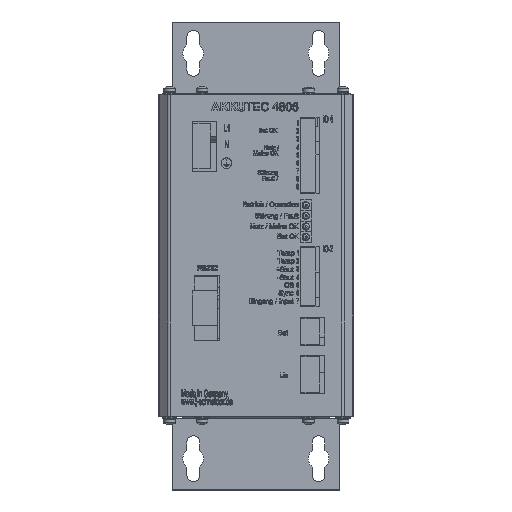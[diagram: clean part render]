
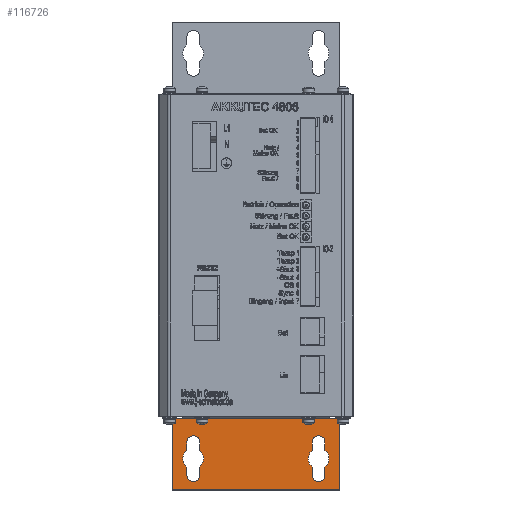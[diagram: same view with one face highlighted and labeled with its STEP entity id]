
A CAD part, top view. The second image highlights one B-rep face of the part: STEP entity #116726.
In plain terms, the highlighted planar face has unit normal (0, 0, 1).
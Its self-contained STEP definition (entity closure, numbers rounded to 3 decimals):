
#4334=FACE_BOUND('',#14344,.T.);
#4335=FACE_BOUND('',#14345,.T.);
#5443=CIRCLE('',#123843,3.);
#5444=CIRCLE('',#123845,3.);
#5447=CIRCLE('',#123849,3.);
#5448=CIRCLE('',#123851,3.);
#5455=CIRCLE('',#123867,5.);
#5456=CIRCLE('',#123869,5.);
#5459=CIRCLE('',#123877,5.);
#5461=CIRCLE('',#123880,5.);
#8072=FACE_OUTER_BOUND('',#14343,.T.);
#14343=EDGE_LOOP('',(#83449,#83450,#83451,#83452,#83453,#83454));
#14344=EDGE_LOOP('',(#83455,#83456,#83457,#83458,#83459,#83460,#83461,#83462));
#14345=EDGE_LOOP('',(#83463,#83464,#83465,#83466,#83467,#83468,#83469,#83470));
#24035=LINE('',#161595,#37232);
#24039=LINE('',#161603,#37236);
#24041=LINE('',#161607,#37238);
#24044=LINE('',#161613,#37241);
#24048=LINE('',#161621,#37245);
#24052=LINE('',#161628,#37249);
#24053=LINE('',#161637,#37250);
#24056=LINE('',#161643,#37253);
#24060=LINE('',#161651,#37257);
#24062=LINE('',#161655,#37259);
#24085=LINE('',#161722,#37282);
#24091=LINE('',#161735,#37288);
#24092=LINE('',#161737,#37289);
#24093=LINE('',#161738,#37290);
#37232=VECTOR('',#136416,1.);
#37236=VECTOR('',#136422,1.);
#37238=VECTOR('',#136426,1.);
#37241=VECTOR('',#136431,1.);
#37245=VECTOR('',#136437,1.);
#37249=VECTOR('',#136443,1.);
#37250=VECTOR('',#136458,1.);
#37253=VECTOR('',#136463,1.);
#37257=VECTOR('',#136469,1.);
#37259=VECTOR('',#136473,1.);
#37282=VECTOR('',#136544,1.);
#37288=VECTOR('',#136556,1.);
#37289=VECTOR('',#136557,1.);
#37290=VECTOR('',#136558,1.);
#48930=VERTEX_POINT('',#161546);
#48931=VERTEX_POINT('',#161548);
#48932=VERTEX_POINT('',#161552);
#48933=VERTEX_POINT('',#161553);
#48938=VERTEX_POINT('',#161564);
#48939=VERTEX_POINT('',#161566);
#48940=VERTEX_POINT('',#161570);
#48941=VERTEX_POINT('',#161571);
#48949=VERTEX_POINT('',#161592);
#48950=VERTEX_POINT('',#161594);
#48952=VERTEX_POINT('',#161600);
#48954=VERTEX_POINT('',#161606);
#48956=VERTEX_POINT('',#161612);
#48958=VERTEX_POINT('',#161618);
#48961=VERTEX_POINT('',#161625);
#48962=VERTEX_POINT('',#161636);
#48964=VERTEX_POINT('',#161642);
#48966=VERTEX_POINT('',#161648);
#48968=VERTEX_POINT('',#161654);
#48988=VERTEX_POINT('',#161720);
#48992=VERTEX_POINT('',#161734);
#48993=VERTEX_POINT('',#161736);
#61622=EDGE_CURVE('',#48931,#48930,#5443,.T.);
#61624=EDGE_CURVE('',#48932,#48933,#5444,.T.);
#61630=EDGE_CURVE('',#48939,#48938,#5447,.T.);
#61632=EDGE_CURVE('',#48940,#48941,#5448,.T.);
#61643=EDGE_CURVE('',#48950,#48949,#24035,.T.);
#61647=EDGE_CURVE('',#48949,#48952,#24039,.T.);
#61649=EDGE_CURVE('',#48954,#48940,#24041,.T.);
#61652=EDGE_CURVE('',#48930,#48956,#24044,.T.);
#61656=EDGE_CURVE('',#48941,#48958,#24048,.T.);
#61660=EDGE_CURVE('',#48961,#48931,#24052,.T.);
#61662=EDGE_CURVE('',#48956,#48954,#5455,.T.);
#61663=EDGE_CURVE('',#48958,#48961,#5456,.T.);
#61665=EDGE_CURVE('',#48962,#48932,#24053,.T.);
#61668=EDGE_CURVE('',#48938,#48964,#24056,.T.);
#61672=EDGE_CURVE('',#48933,#48966,#24060,.T.);
#61674=EDGE_CURVE('',#48968,#48939,#24062,.T.);
#61678=EDGE_CURVE('',#48966,#48968,#5459,.T.);
#61680=EDGE_CURVE('',#48964,#48962,#5461,.T.);
#61709=EDGE_CURVE('',#48952,#48988,#24085,.T.);
#61715=EDGE_CURVE('',#48950,#48992,#24091,.T.);
#61716=EDGE_CURVE('',#48993,#48988,#24092,.T.);
#61717=EDGE_CURVE('',#48992,#48993,#24093,.T.);
#83449=ORIENTED_EDGE('',*,*,#61715,.F.);
#83450=ORIENTED_EDGE('',*,*,#61643,.T.);
#83451=ORIENTED_EDGE('',*,*,#61647,.T.);
#83452=ORIENTED_EDGE('',*,*,#61709,.T.);
#83453=ORIENTED_EDGE('',*,*,#61716,.F.);
#83454=ORIENTED_EDGE('',*,*,#61717,.F.);
#83455=ORIENTED_EDGE('',*,*,#61678,.T.);
#83456=ORIENTED_EDGE('',*,*,#61674,.T.);
#83457=ORIENTED_EDGE('',*,*,#61630,.T.);
#83458=ORIENTED_EDGE('',*,*,#61668,.T.);
#83459=ORIENTED_EDGE('',*,*,#61680,.T.);
#83460=ORIENTED_EDGE('',*,*,#61665,.T.);
#83461=ORIENTED_EDGE('',*,*,#61624,.T.);
#83462=ORIENTED_EDGE('',*,*,#61672,.T.);
#83463=ORIENTED_EDGE('',*,*,#61662,.T.);
#83464=ORIENTED_EDGE('',*,*,#61649,.T.);
#83465=ORIENTED_EDGE('',*,*,#61632,.T.);
#83466=ORIENTED_EDGE('',*,*,#61656,.T.);
#83467=ORIENTED_EDGE('',*,*,#61663,.T.);
#83468=ORIENTED_EDGE('',*,*,#61660,.T.);
#83469=ORIENTED_EDGE('',*,*,#61622,.T.);
#83470=ORIENTED_EDGE('',*,*,#61652,.T.);
#107404=PLANE('',#123901);
#116726=ADVANCED_FACE('',(#8072,#4334,#4335),#107404,.T.);
#123843=AXIS2_PLACEMENT_3D('',#161549,#136372,#136373);
#123845=AXIS2_PLACEMENT_3D('',#161554,#136377,#136378);
#123849=AXIS2_PLACEMENT_3D('',#161567,#136388,#136389);
#123851=AXIS2_PLACEMENT_3D('',#161572,#136393,#136394);
#123867=AXIS2_PLACEMENT_3D('',#161631,#136448,#136449);
#123869=AXIS2_PLACEMENT_3D('',#161633,#136452,#136453);
#123877=AXIS2_PLACEMENT_3D('',#161661,#136480,#136481);
#123880=AXIS2_PLACEMENT_3D('',#161664,#136486,#136487);
#123901=AXIS2_PLACEMENT_3D('',#161733,#136554,#136555);
#136372=DIRECTION('center_axis',(0.,0.,
-1.));
#136373=DIRECTION('ref_axis',(0.,1.,0.));
#136377=DIRECTION('center_axis',(0.,0.,
-1.));
#136378=DIRECTION('ref_axis',(0.,1.,0.));
#136388=DIRECTION('center_axis',(0.,0.,
-1.));
#136389=DIRECTION('ref_axis',(0.,1.,0.));
#136393=DIRECTION('center_axis',(0.,0.,
-1.));
#136394=DIRECTION('ref_axis',(0.,1.,0.));
#136416=DIRECTION('',(0.,1.,0.));
#136422=DIRECTION('',(-1.,0.,0.));
#136426=DIRECTION('',(0.,1.,0.));
#136431=DIRECTION('',(0.,1.,0.));
#136437=DIRECTION('',(0.,-1.,0.));
#136443=DIRECTION('',(0.,-1.,0.));
#136448=DIRECTION('center_axis',(0.,0.,-1.));
#136449=DIRECTION('ref_axis',(0.,1.,0.));
#136452=DIRECTION('center_axis',(0.,0.,-1.));
#136453=DIRECTION('ref_axis',(0.,1.,0.));
#136458=DIRECTION('',(0.,1.,0.));
#136463=DIRECTION('',(0.,1.,0.));
#136469=DIRECTION('',(0.,-1.,0.));
#136473=DIRECTION('',(0.,-1.,0.));
#136480=DIRECTION('center_axis',(0.,0.,-1.));
#136481=DIRECTION('ref_axis',(0.,1.,0.));
#136486=DIRECTION('center_axis',(0.,0.,-1.));
#136487=DIRECTION('ref_axis',(0.,1.,0.));
#136544=DIRECTION('',(-1.,0.,0.));
#136554=DIRECTION('center_axis',(0.,0.,1.));
#136555=DIRECTION('ref_axis',(0.,1.,0.));
#136556=DIRECTION('',(-1.,0.,0.));
#136557=DIRECTION('',(1.,0.,0.));
#136558=DIRECTION('',(0.,1.,0.));
#161546=CARTESIAN_POINT('',(-16.461,78.686,-59.));
#161548=CARTESIAN_POINT('',(-10.461,78.686,-59.));
#161549=CARTESIAN_POINT('Origin',(-13.461,78.686,-59.));
#161552=CARTESIAN_POINT('',(43.539,94.686,-59.));
#161553=CARTESIAN_POINT('',(49.539,94.686,-59.));
#161554=CARTESIAN_POINT('Origin',(46.539,94.686,-59.));
#161564=CARTESIAN_POINT('',(43.539,78.686,-59.));
#161566=CARTESIAN_POINT('',(49.539,78.686,-59.));
#161567=CARTESIAN_POINT('Origin',(46.539,78.686,-59.));
#161570=CARTESIAN_POINT('',(-16.461,94.686,-59.));
#161571=CARTESIAN_POINT('',(-10.461,94.686,-59.));
#161572=CARTESIAN_POINT('Origin',(-13.461,94.686,-59.));
#161592=CARTESIAN_POINT('',(56.539,105.686,-59.));
#161594=CARTESIAN_POINT('',(56.539,71.686,-59.));
#161595=CARTESIAN_POINT('',(56.539,88.686,-59.));
#161600=CARTESIAN_POINT('',(51.539,105.686,-59.));
#161603=CARTESIAN_POINT('',(54.039,105.686,-59.));
#161606=CARTESIAN_POINT('',(-16.461,90.686,-59.));
#161607=CARTESIAN_POINT('',(-16.461,92.186,-59.));
#161612=CARTESIAN_POINT('',(-16.461,82.686,-59.));
#161613=CARTESIAN_POINT('',(-16.461,92.186,-59.));
#161618=CARTESIAN_POINT('',(-10.461,90.686,-59.));
#161621=CARTESIAN_POINT('',(-10.461,100.186,-59.));
#161625=CARTESIAN_POINT('',(-10.461,82.686,-59.));
#161628=CARTESIAN_POINT('',(-10.461,100.186,-59.));
#161631=CARTESIAN_POINT('Origin',(-13.461,86.686,-59.));
#161633=CARTESIAN_POINT('Origin',(-13.461,86.686,-59.));
#161636=CARTESIAN_POINT('',(43.539,90.686,-59.));
#161637=CARTESIAN_POINT('',(43.539,92.186,-59.));
#161642=CARTESIAN_POINT('',(43.539,82.686,-59.));
#161643=CARTESIAN_POINT('',(43.539,92.186,-59.));
#161648=CARTESIAN_POINT('',(49.539,90.686,-59.));
#161651=CARTESIAN_POINT('',(49.539,100.186,-59.));
#161654=CARTESIAN_POINT('',(49.539,82.686,-59.));
#161655=CARTESIAN_POINT('',(49.539,100.186,-59.));
#161661=CARTESIAN_POINT('Origin',(46.539,86.686,-59.));
#161664=CARTESIAN_POINT('Origin',(46.539,86.686,-59.));
#161720=CARTESIAN_POINT('',(-18.461,105.686,-59.));
#161722=CARTESIAN_POINT('',(51.539,105.686,-59.));
#161733=CARTESIAN_POINT('Origin',(-20.961,88.686,-59.));
#161734=CARTESIAN_POINT('',(-23.461,71.686,-59.));
#161735=CARTESIAN_POINT('',(-20.961,71.686,-59.));
#161736=CARTESIAN_POINT('',(-23.461,105.686,-59.));
#161737=CARTESIAN_POINT('',(-20.961,105.686,-59.));
#161738=CARTESIAN_POINT('',(-23.461,88.686,-59.));
